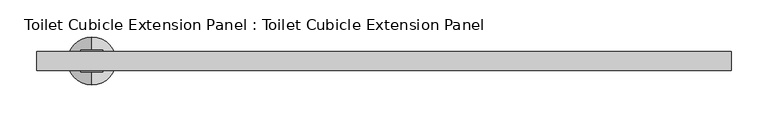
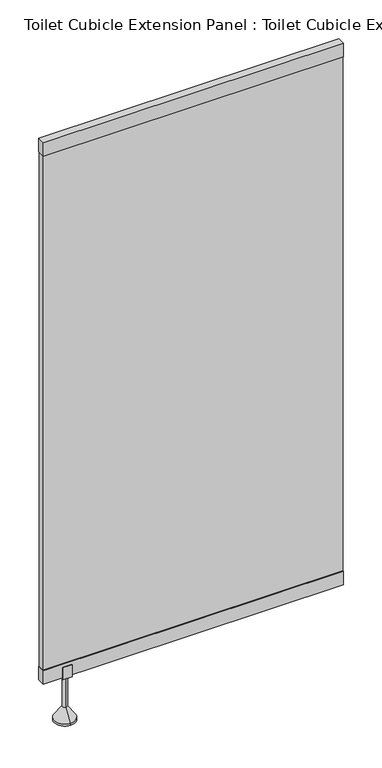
"""IFC4 building model written with IfcOpenShell, lengths in millimetres: proxy geometry, Toilet Cubicle Extension Panel : Toilet Cubicle Extension Panel."""

from ifc_helpers import new_model, si_unit, frame, origin, place, context, project, spatial, polyline, circle_curve, outline, extrude, source, transform, mapped, element, save
from ifc_brep_helpers import plane_surface, cylinder_surface, revolved_surface, advanced_brep


def toilet_cubicle_extension_panel_toilet_cubicle_extension_13565868(model_context):
    return source(origin(), model_context, "Body", "SolidModel", [
        extrude(outline(polyline([(-1785.0, 145.0), (-1815.0, 145.0), (-1815.0, 185.0), (-1810.0, 185.0), (-1810.0, 150.0), (-1790.0, 150.0), (-1790.0, 185.0), (-1785.0, 185.0), (-1785.0, 145.0)])), frame((457.9310706, 0.0, 0.0), z_axis=(1.0, 0.0, 0.0), x_axis=(0.0, 1.0, 0.0)), (0.0, 0.0, 1.0), 30.0),
        advanced_brep(
        [(472.9310706, -1832.9430575, 7.2339182), (472.9310706, -1767.0569425, 7.2339182), (472.9310706, -1792.5, 43.57037), (472.9310706, -1807.5, 43.57037), (472.9310706, -1832.9430575, 0.0), (472.9310706, -1767.0569425, 0.0), (472.9310706, -1800.0, 0.0), (472.9310706, -1807.5, 145.0), (472.9310706, -1792.5, 145.0), (472.9310706, -1800.0, 145.0)],
        [
            (0, 1, circle_curve(frame((472.9310706, -1800.0, 7.2339182), z_axis=(0.0, 0.0, 1.0), x_axis=(0.0, 1.0, 0.0)), 32.9430575)),
            (1, 2),
            (2, 3, circle_curve(frame((472.9310706, -1800.0, 43.57037), z_axis=(0.0, 0.0, -1.0), x_axis=(0.0, 1.0, 0.0)), 7.5)),
            (3, 0),
            (1, 0, circle_curve(frame((472.9310706, -1800.0, 7.2339182), z_axis=(0.0, 0.0, 1.0), x_axis=(0.0, 1.0, 0.0)), 32.9430575)),
            (3, 2, circle_curve(frame((472.9310706, -1800.0, 43.57037), z_axis=(0.0, 0.0, -1.0), x_axis=(0.0, 1.0, 0.0)), 7.5)),
            (4, 5, circle_curve(frame((472.9310706, -1800.0, 0.0), z_axis=(0.0, 0.0, 1.0), x_axis=(0.0, 1.0, 0.0)), 32.9430575)),
            (5, 1),
            (0, 4),
            (5, 4, circle_curve(frame((472.9310706, -1800.0, 0.0), z_axis=(0.0, 0.0, 1.0), x_axis=(0.0, 1.0, 0.0)), 32.9430575)),
            (6, 5),
            (4, 6),
            (7, 8, circle_curve(frame((472.9310706, -1800.0, 145.0), z_axis=(0.0, 0.0, 1.0), x_axis=(0.0, 1.0, 0.0)), 7.5)),
            (8, 9),
            (9, 7),
            (8, 7, circle_curve(frame((472.9310706, -1800.0, 145.0), z_axis=(0.0, 0.0, 1.0), x_axis=(0.0, 1.0, 0.0)), 7.5)),
            (2, 8),
            (7, 3),
        ],
        [
            revolved_surface(polyline([(472.9310706, -1792.5, 43.57037), (472.9310706, -1767.0569425, 7.2339182)]), (472.9310706, -1800.0, -60.0), (0.0, 0.0, -1.0)),
            cylinder_surface(frame((472.9310706, -1800.0, -60.0), z_axis=(0.0, 0.0, -1.0), x_axis=(0.0, 1.0, 0.0)), 32.9430575),
            plane_surface(frame((472.9310706, -1800.0, 0.0), z_axis=(0.0, 0.0, -1.0), x_axis=(0.0, 1.0, 0.0))),
            plane_surface(frame((472.9310706, -1800.0, 145.0), z_axis=(0.0, 0.0, 1.0), x_axis=(0.0, 1.0, 0.0))),
            cylinder_surface(frame((472.9310706, -1800.0, -60.0), z_axis=(0.0, 0.0, -1.0), x_axis=(0.0, 1.0, 0.0)), 7.5),
        ],
        [
            (0, [[1, 2, 3, 4]]),
            (0, [[5, -4, 6, -2]]),
            (1, [[7, 8, -1, 9]]),
            (1, [[10, -9, -5, -8]]),
            (2, [[11, -7, 12]]),
            (2, [[-12, -10, -11]]),
            (3, [[13, 14, 15]]),
            (3, [[16, -15, -14]]),
            (4, [[-3, 17, -13, 18]]),
            (4, [[-6, -18, -16, -17]]),
        ],
    ),
        extrude(outline(polyline([(1342.3139173, -1813.0), (397.9310706, -1813.0), (397.9310706, -1787.2947936), (1342.3139173, -1787.2947936), (1342.3139173, -1813.0)])), frame((0.0, 0.0, 1905.0), z_axis=(0.0, 0.0, 1.0), x_axis=(1.0, 0.0, 0.0)), (0.0, 0.0, 1.0), 45.0),
        extrude(outline(polyline([(1342.3139173, -1813.0), (397.9310706, -1813.0), (397.9310706, -1787.2947936), (1342.3139173, -1787.2947936), (1342.3139173, -1813.0)])), frame((0.0, 0.0, 150.0), z_axis=(0.0, 0.0, 1.0), x_axis=(1.0, 0.0, 0.0)), (0.0, 0.0, 1.0), 45.0),
        extrude(outline(polyline([(397.9310706, -1810.0), (397.9310706, -1790.0), (1342.3139173, -1790.0), (1342.3139173, -1810.0), (397.9310706, -1810.0)])), frame((0.0, 0.0, 195.0), z_axis=(0.0, 0.0, 1.0), x_axis=(1.0, 0.0, 0.0)), (0.0, 0.0, 1.0), 1710.0),
    ])


if __name__ == "__main__":
    model = new_model("IFC4")
    model_context = context("Model", 3, world=origin())
    ifc_project = project(units=[si_unit("LENGTHUNIT", "METRE", prefix="MILLI")], contexts=[model_context])
    site = spatial("IfcSite", under=ifc_project)
    building = spatial("IfcBuilding", under=site)
    placement = place(None, origin())
    toilet_cubicle_extension_panel_toilet_cubicle_extension_shape = toilet_cubicle_extension_panel_toilet_cubicle_extension_13565868(model_context)
    element("IfcBuildingElementProxy", 1, Name="Toilet Cubicle Extension Panel : Toilet Cubicle Extension Panel", ObjectType="Toilet Cubicle Extension Panel : Toilet Cubicle Extension Panel", at=placement, inside=building, context=model_context, shape_type="MappedRepresentation", body=[
        mapped(toilet_cubicle_extension_panel_toilet_cubicle_extension_shape, transform((0.0, 0.0, 0.0), x_axis=(1.0, 0.0, 0.0), y_axis=(0.0, 1.0, 0.0), z_axis=(0.0, 0.0, 1.0))),
    ])
    save(model, "model.ifc")
